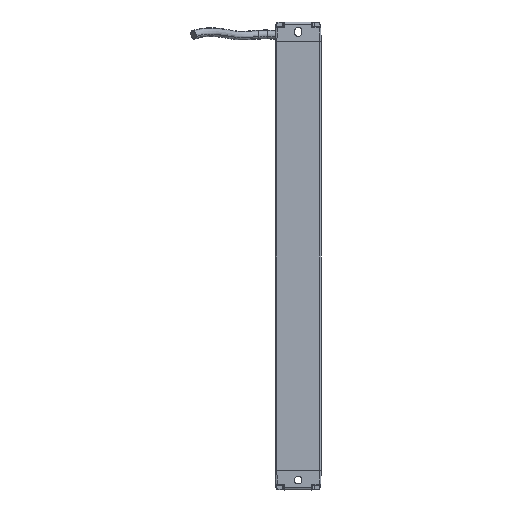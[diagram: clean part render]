
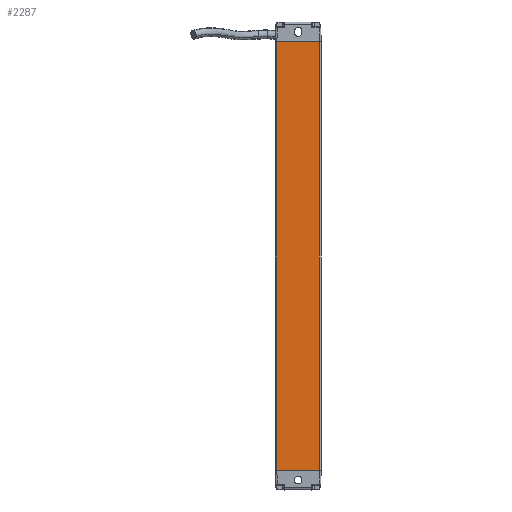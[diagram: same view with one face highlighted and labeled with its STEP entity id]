
A CAD part, front view. The second image highlights one B-rep face of the part: STEP entity #2287.
In plain terms, the highlighted planar face has unit normal (-0.001, -1, 0).
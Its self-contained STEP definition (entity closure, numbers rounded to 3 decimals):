
#2287=ADVANCED_FACE('',(#3364),#2658,.T.);
#2658=PLANE('',#15743);
#3364=FACE_OUTER_BOUND('',#4181,.T.);
#4181=EDGE_LOOP('',(#8305,#8306,#8307,#8308));
#8305=ORIENTED_EDGE('',*,*,#12020,.T.);
#8306=ORIENTED_EDGE('',*,*,#11984,.F.);
#8307=ORIENTED_EDGE('',*,*,#12018,.T.);
#8308=ORIENTED_EDGE('',*,*,#12021,.T.);
#9870=VERTEX_POINT('',#27043);
#9871=VERTEX_POINT('',#27045);
#9897=VERTEX_POINT('',#27112);
#9898=VERTEX_POINT('',#27116);
#11984=EDGE_CURVE('',#9870,#9871,#13238,.T.);
#12018=EDGE_CURVE('',#9870,#9897,#13260,.T.);
#12020=EDGE_CURVE('',#9898,#9871,#13261,.T.);
#12021=EDGE_CURVE('',#9897,#9898,#13262,.T.);
#13238=LINE('',#27044,#14451);
#13260=LINE('',#27111,#14473);
#13261=LINE('',#27115,#14474);
#13262=LINE('',#27117,#14475);
#14451=VECTOR('',#19379,1.);
#14473=VECTOR('',#19439,1.);
#14474=VECTOR('',#19444,1.);
#14475=VECTOR('',#19445,1.);
#15743=AXIS2_PLACEMENT_3D('',#27118,#19446,#19447);
#19379=DIRECTION('',(1.,-0.001,0.));
#19439=DIRECTION('',(0.,0.,-1.));
#19444=DIRECTION('',(0.,0.,1.));
#19445=DIRECTION('',(1.,-0.001,0.));
#19446=DIRECTION('',(-0.001,-1.,0.));
#19447=DIRECTION('',(1.,-0.001,0.));
#27043=CARTESIAN_POINT('',(53.048,-142.376,460.376));
#27044=CARTESIAN_POINT('',(79.028,-142.395,460.376));
#27045=CARTESIAN_POINT('',(79.028,-142.395,460.376));
#27111=CARTESIAN_POINT('',(53.048,-142.376,543.376));
#27112=CARTESIAN_POINT('',(53.048,-142.376,198.376));
#27115=CARTESIAN_POINT('',(79.028,-142.395,198.376));
#27116=CARTESIAN_POINT('',(79.028,-142.395,198.376));
#27117=CARTESIAN_POINT('',(53.048,-142.376,198.376));
#27118=CARTESIAN_POINT('',(79.028,-142.395,543.376));
